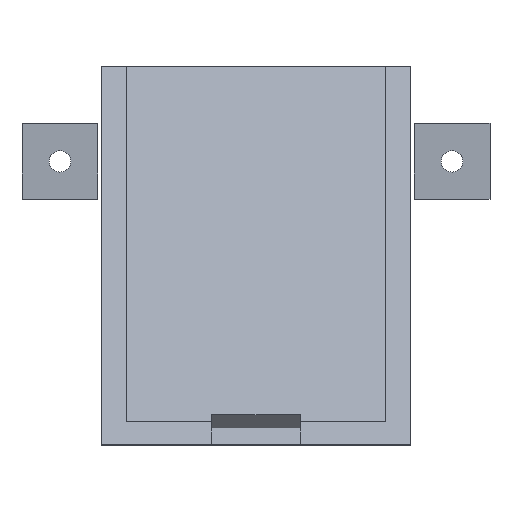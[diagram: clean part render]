
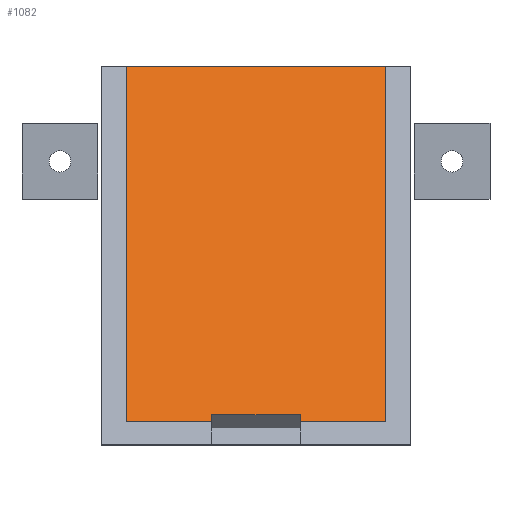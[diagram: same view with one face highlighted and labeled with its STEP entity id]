
A CAD part, top view. The second image highlights one B-rep face of the part: STEP entity #1082.
In plain terms, the highlighted planar face has unit normal (0, 0.423, 0.906).
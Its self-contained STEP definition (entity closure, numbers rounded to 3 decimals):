
#126 = PLANE('',#127);
#127 = AXIS2_PLACEMENT_3D('',#128,#129,#130);
#128 = CARTESIAN_POINT('',(93.5,60.347,197.));
#129 = DIRECTION('',(-0.,-1.,-0.));
#130 = DIRECTION('',(0.,0.,-1.));
#288 = PLANE('',#289);
#289 = AXIS2_PLACEMENT_3D('',#290,#291,#292);
#290 = CARTESIAN_POINT('',(76.,-2.238,221.867));
#291 = DIRECTION('',(-1.,-0.,0.));
#292 = DIRECTION('',(0.,-0.423,-0.906));
#342 = PLANE('',#343);
#343 = AXIS2_PLACEMENT_3D('',#344,#345,#346);
#344 = CARTESIAN_POINT('',(62.,-2.238,221.867));
#345 = DIRECTION('',(-1.,-0.,0.));
#346 = DIRECTION('',(0.,-0.423,-0.906));
#428 = VERTEX_POINT('',#429);
#429 = CARTESIAN_POINT('',(48.5,60.347,198.2));
#443 = PLANE('',#444);
#444 = AXIS2_PLACEMENT_3D('',#445,#446,#447);
#445 = CARTESIAN_POINT('',(48.5,3.5,224.708));
#446 = DIRECTION('',(-1.,-0.,0.));
#447 = DIRECTION('',(0.,-0.423,-0.906));
#455 = EDGE_CURVE('',#428,#456,#458,.T.);
#456 = VERTEX_POINT('',#457);
#457 = CARTESIAN_POINT('',(89.5,60.347,198.2));
#458 = SURFACE_CURVE('',#459,(#463,#470),.PCURVE_S1.);
#459 = LINE('',#460,#461);
#460 = CARTESIAN_POINT('',(91.5,60.347,198.2));
#461 = VECTOR('',#462,1.);
#462 = DIRECTION('',(1.,-0.,-0.));
#463 = PCURVE('',#126,#464);
#464 = DEFINITIONAL_REPRESENTATION('',(#465),#469);
#465 = LINE('',#466,#467);
#466 = CARTESIAN_POINT('',(-1.2,-2.));
#467 = VECTOR('',#468,1.);
#468 = DIRECTION('',(-0.,1.));
#469 = ( GEOMETRIC_REPRESENTATION_CONTEXT(2) 
PARAMETRIC_REPRESENTATION_CONTEXT() REPRESENTATION_CONTEXT('2D SPACE',''
  ) );
#470 = PCURVE('',#471,#476);
#471 = PLANE('',#472);
#472 = AXIS2_PLACEMENT_3D('',#473,#474,#475);
#473 = CARTESIAN_POINT('',(89.5,3.5,224.708));
#474 = DIRECTION('',(0.,0.423,0.906));
#475 = DIRECTION('',(1.,0.,0.));
#476 = DEFINITIONAL_REPRESENTATION('',(#477),#481);
#477 = LINE('',#478,#479);
#478 = CARTESIAN_POINT('',(2.,62.724));
#479 = VECTOR('',#480,1.);
#480 = DIRECTION('',(1.,-0.));
#481 = ( GEOMETRIC_REPRESENTATION_CONTEXT(2) 
PARAMETRIC_REPRESENTATION_CONTEXT() REPRESENTATION_CONTEXT('2D SPACE',''
  ) );
#499 = PLANE('',#500);
#500 = AXIS2_PLACEMENT_3D('',#501,#502,#503);
#501 = CARTESIAN_POINT('',(89.5,3.5,224.708));
#502 = DIRECTION('',(-1.,-0.,0.));
#503 = DIRECTION('',(0.,-0.423,-0.906));
#630 = PLANE('',#631);
#631 = AXIS2_PLACEMENT_3D('',#632,#633,#634);
#632 = CARTESIAN_POINT('',(89.5,3.5,224.708));
#633 = DIRECTION('',(-0.,0.906,-0.423));
#634 = DIRECTION('',(0.,-0.423,-0.906));
#727 = PLANE('',#728);
#728 = AXIS2_PLACEMENT_3D('',#729,#730,#731);
#729 = CARTESIAN_POINT('',(89.5,3.5,224.708));
#730 = DIRECTION('',(-0.,0.906,-0.423));
#731 = DIRECTION('',(0.,-0.423,-0.906));
#840 = VERTEX_POINT('',#841);
#841 = CARTESIAN_POINT('',(62.,5.313,223.863));
#855 = PLANE('',#856);
#856 = AXIS2_PLACEMENT_3D('',#857,#858,#859);
#857 = CARTESIAN_POINT('',(76.,3.2,219.331));
#858 = DIRECTION('',(-0.,0.906,-0.423));
#859 = DIRECTION('',(0.,-0.423,-0.906));
#867 = EDGE_CURVE('',#868,#840,#870,.T.);
#868 = VERTEX_POINT('',#869);
#869 = CARTESIAN_POINT('',(62.,3.5,224.708));
#870 = SURFACE_CURVE('',#871,(#875,#882),.PCURVE_S1.);
#871 = LINE('',#872,#873);
#872 = CARTESIAN_POINT('',(62.,1.687,225.553));
#873 = VECTOR('',#874,1.);
#874 = DIRECTION('',(-0.,0.906,-0.423));
#875 = PCURVE('',#342,#876);
#876 = DEFINITIONAL_REPRESENTATION('',(#877),#881);
#877 = LINE('',#878,#879);
#878 = CARTESIAN_POINT('',(-5.,-2.));
#879 = VECTOR('',#880,1.);
#880 = DIRECTION('',(-0.,-1.));
#881 = ( GEOMETRIC_REPRESENTATION_CONTEXT(2) 
PARAMETRIC_REPRESENTATION_CONTEXT() REPRESENTATION_CONTEXT('2D SPACE',''
  ) );
#882 = PCURVE('',#471,#883);
#883 = DEFINITIONAL_REPRESENTATION('',(#884),#888);
#884 = LINE('',#885,#886);
#885 = CARTESIAN_POINT('',(-27.5,-2.));
#886 = VECTOR('',#887,1.);
#887 = DIRECTION('',(-0.,1.));
#888 = ( GEOMETRIC_REPRESENTATION_CONTEXT(2) 
PARAMETRIC_REPRESENTATION_CONTEXT() REPRESENTATION_CONTEXT('2D SPACE',''
  ) );
#968 = VERTEX_POINT('',#969);
#969 = CARTESIAN_POINT('',(76.,5.313,223.863));
#990 = EDGE_CURVE('',#991,#968,#993,.T.);
#991 = VERTEX_POINT('',#992);
#992 = CARTESIAN_POINT('',(76.,3.5,224.708));
#993 = SURFACE_CURVE('',#994,(#998,#1005),.PCURVE_S1.);
#994 = LINE('',#995,#996);
#995 = CARTESIAN_POINT('',(76.,1.687,225.553));
#996 = VECTOR('',#997,1.);
#997 = DIRECTION('',(-0.,0.906,-0.423));
#998 = PCURVE('',#288,#999);
#999 = DEFINITIONAL_REPRESENTATION('',(#1000),#1004);
#1000 = LINE('',#1001,#1002);
#1001 = CARTESIAN_POINT('',(-5.,-2.));
#1002 = VECTOR('',#1003,1.);
#1003 = DIRECTION('',(-0.,-1.));
#1004 = ( GEOMETRIC_REPRESENTATION_CONTEXT(2) 
PARAMETRIC_REPRESENTATION_CONTEXT() REPRESENTATION_CONTEXT('2D SPACE',''
  ) );
#1005 = PCURVE('',#471,#1006);
#1006 = DEFINITIONAL_REPRESENTATION('',(#1007),#1011);
#1007 = LINE('',#1008,#1009);
#1008 = CARTESIAN_POINT('',(-13.5,-2.));
#1009 = VECTOR('',#1010,1.);
#1010 = DIRECTION('',(-0.,1.));
#1011 = ( GEOMETRIC_REPRESENTATION_CONTEXT(2) 
PARAMETRIC_REPRESENTATION_CONTEXT() REPRESENTATION_CONTEXT('2D SPACE',''
  ) );
#1038 = VERTEX_POINT('',#1039);
#1039 = CARTESIAN_POINT('',(89.5,3.5,224.708));
#1060 = EDGE_CURVE('',#1038,#456,#1061,.T.);
#1061 = SURFACE_CURVE('',#1062,(#1066,#1073),.PCURVE_S1.);
#1062 = LINE('',#1063,#1064);
#1063 = CARTESIAN_POINT('',(89.5,3.5,224.708));
#1064 = VECTOR('',#1065,1.);
#1065 = DIRECTION('',(-0.,0.906,-0.423));
#1066 = PCURVE('',#499,#1067);
#1067 = DEFINITIONAL_REPRESENTATION('',(#1068),#1072);
#1068 = LINE('',#1069,#1070);
#1069 = CARTESIAN_POINT('',(-0.,0.));
#1070 = VECTOR('',#1071,1.);
#1071 = DIRECTION('',(-0.,-1.));
#1072 = ( GEOMETRIC_REPRESENTATION_CONTEXT(2) 
PARAMETRIC_REPRESENTATION_CONTEXT() REPRESENTATION_CONTEXT('2D SPACE',''
  ) );
#1073 = PCURVE('',#471,#1074);
#1074 = DEFINITIONAL_REPRESENTATION('',(#1075),#1079);
#1075 = LINE('',#1076,#1077);
#1076 = CARTESIAN_POINT('',(0.,-0.));
#1077 = VECTOR('',#1078,1.);
#1078 = DIRECTION('',(-0.,1.));
#1079 = ( GEOMETRIC_REPRESENTATION_CONTEXT(2) 
PARAMETRIC_REPRESENTATION_CONTEXT() REPRESENTATION_CONTEXT('2D SPACE',''
  ) );
#1082 = ADVANCED_FACE('',(#1083),#471,.T.);
#1083 = FACE_BOUND('',#1084,.F.);
#1084 = EDGE_LOOP('',(#1085,#1108,#1109,#1110,#1131,#1132,#1153,#1154));
#1085 = ORIENTED_EDGE('',*,*,#1086,.T.);
#1086 = EDGE_CURVE('',#1087,#428,#1089,.T.);
#1087 = VERTEX_POINT('',#1088);
#1088 = CARTESIAN_POINT('',(48.5,3.5,224.708));
#1089 = SURFACE_CURVE('',#1090,(#1094,#1101),.PCURVE_S1.);
#1090 = LINE('',#1091,#1092);
#1091 = CARTESIAN_POINT('',(48.5,3.5,224.708));
#1092 = VECTOR('',#1093,1.);
#1093 = DIRECTION('',(-0.,0.906,-0.423));
#1094 = PCURVE('',#471,#1095);
#1095 = DEFINITIONAL_REPRESENTATION('',(#1096),#1100);
#1096 = LINE('',#1097,#1098);
#1097 = CARTESIAN_POINT('',(-41.,0.));
#1098 = VECTOR('',#1099,1.);
#1099 = DIRECTION('',(-0.,1.));
#1100 = ( GEOMETRIC_REPRESENTATION_CONTEXT(2) 
PARAMETRIC_REPRESENTATION_CONTEXT() REPRESENTATION_CONTEXT('2D SPACE',''
  ) );
#1101 = PCURVE('',#443,#1102);
#1102 = DEFINITIONAL_REPRESENTATION('',(#1103),#1107);
#1103 = LINE('',#1104,#1105);
#1104 = CARTESIAN_POINT('',(-0.,0.));
#1105 = VECTOR('',#1106,1.);
#1106 = DIRECTION('',(-0.,-1.));
#1107 = ( GEOMETRIC_REPRESENTATION_CONTEXT(2) 
PARAMETRIC_REPRESENTATION_CONTEXT() REPRESENTATION_CONTEXT('2D SPACE',''
  ) );
#1108 = ORIENTED_EDGE('',*,*,#455,.T.);
#1109 = ORIENTED_EDGE('',*,*,#1060,.F.);
#1110 = ORIENTED_EDGE('',*,*,#1111,.T.);
#1111 = EDGE_CURVE('',#1038,#991,#1112,.T.);
#1112 = SURFACE_CURVE('',#1113,(#1117,#1124),.PCURVE_S1.);
#1113 = LINE('',#1114,#1115);
#1114 = CARTESIAN_POINT('',(89.5,3.5,224.708));
#1115 = VECTOR('',#1116,1.);
#1116 = DIRECTION('',(-1.,-0.,0.));
#1117 = PCURVE('',#471,#1118);
#1118 = DEFINITIONAL_REPRESENTATION('',(#1119),#1123);
#1119 = LINE('',#1120,#1121);
#1120 = CARTESIAN_POINT('',(0.,-0.));
#1121 = VECTOR('',#1122,1.);
#1122 = DIRECTION('',(-1.,0.));
#1123 = ( GEOMETRIC_REPRESENTATION_CONTEXT(2) 
PARAMETRIC_REPRESENTATION_CONTEXT() REPRESENTATION_CONTEXT('2D SPACE',''
  ) );
#1124 = PCURVE('',#630,#1125);
#1125 = DEFINITIONAL_REPRESENTATION('',(#1126),#1130);
#1126 = LINE('',#1127,#1128);
#1127 = CARTESIAN_POINT('',(-0.,-0.));
#1128 = VECTOR('',#1129,1.);
#1129 = DIRECTION('',(-0.,1.));
#1130 = ( GEOMETRIC_REPRESENTATION_CONTEXT(2) 
PARAMETRIC_REPRESENTATION_CONTEXT() REPRESENTATION_CONTEXT('2D SPACE',''
  ) );
#1131 = ORIENTED_EDGE('',*,*,#990,.T.);
#1132 = ORIENTED_EDGE('',*,*,#1133,.F.);
#1133 = EDGE_CURVE('',#840,#968,#1134,.T.);
#1134 = SURFACE_CURVE('',#1135,(#1139,#1146),.PCURVE_S1.);
#1135 = LINE('',#1136,#1137);
#1136 = CARTESIAN_POINT('',(82.75,5.313,223.863));
#1137 = VECTOR('',#1138,1.);
#1138 = DIRECTION('',(1.,-0.,-0.));
#1139 = PCURVE('',#471,#1140);
#1140 = DEFINITIONAL_REPRESENTATION('',(#1141),#1145);
#1141 = LINE('',#1142,#1143);
#1142 = CARTESIAN_POINT('',(-6.75,2.));
#1143 = VECTOR('',#1144,1.);
#1144 = DIRECTION('',(1.,-0.));
#1145 = ( GEOMETRIC_REPRESENTATION_CONTEXT(2) 
PARAMETRIC_REPRESENTATION_CONTEXT() REPRESENTATION_CONTEXT('2D SPACE',''
  ) );
#1146 = PCURVE('',#855,#1147);
#1147 = DEFINITIONAL_REPRESENTATION('',(#1148),#1152);
#1148 = LINE('',#1149,#1150);
#1149 = CARTESIAN_POINT('',(-5.,-6.75));
#1150 = VECTOR('',#1151,1.);
#1151 = DIRECTION('',(-0.,-1.));
#1152 = ( GEOMETRIC_REPRESENTATION_CONTEXT(2) 
PARAMETRIC_REPRESENTATION_CONTEXT() REPRESENTATION_CONTEXT('2D SPACE',''
  ) );
#1153 = ORIENTED_EDGE('',*,*,#867,.F.);
#1154 = ORIENTED_EDGE('',*,*,#1155,.T.);
#1155 = EDGE_CURVE('',#868,#1087,#1156,.T.);
#1156 = SURFACE_CURVE('',#1157,(#1161,#1168),.PCURVE_S1.);
#1157 = LINE('',#1158,#1159);
#1158 = CARTESIAN_POINT('',(89.5,3.5,224.708));
#1159 = VECTOR('',#1160,1.);
#1160 = DIRECTION('',(-1.,-0.,0.));
#1161 = PCURVE('',#471,#1162);
#1162 = DEFINITIONAL_REPRESENTATION('',(#1163),#1167);
#1163 = LINE('',#1164,#1165);
#1164 = CARTESIAN_POINT('',(0.,-0.));
#1165 = VECTOR('',#1166,1.);
#1166 = DIRECTION('',(-1.,0.));
#1167 = ( GEOMETRIC_REPRESENTATION_CONTEXT(2) 
PARAMETRIC_REPRESENTATION_CONTEXT() REPRESENTATION_CONTEXT('2D SPACE',''
  ) );
#1168 = PCURVE('',#727,#1169);
#1169 = DEFINITIONAL_REPRESENTATION('',(#1170),#1174);
#1170 = LINE('',#1171,#1172);
#1171 = CARTESIAN_POINT('',(-0.,-0.));
#1172 = VECTOR('',#1173,1.);
#1173 = DIRECTION('',(-0.,1.));
#1174 = ( GEOMETRIC_REPRESENTATION_CONTEXT(2) 
PARAMETRIC_REPRESENTATION_CONTEXT() REPRESENTATION_CONTEXT('2D SPACE',''
  ) );
